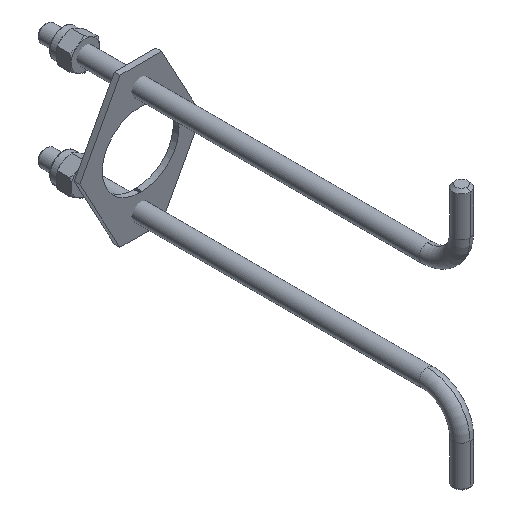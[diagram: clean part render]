
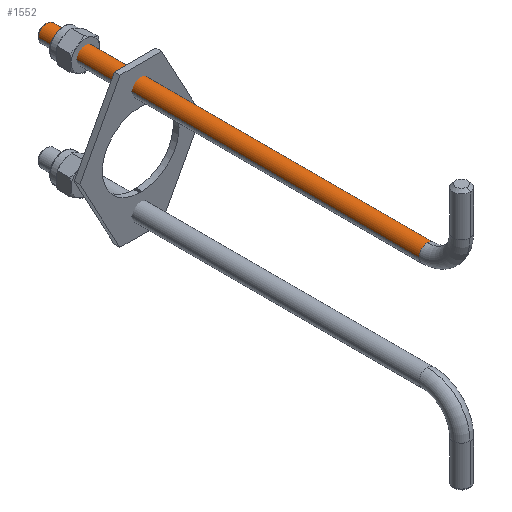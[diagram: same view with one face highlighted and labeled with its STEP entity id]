
A CAD part, isometric view. The second image highlights one B-rep face of the part: STEP entity #1552.
In plain terms, the highlighted cylindrical face has radius 3 mm (diameter 6 mm), a partial arc.
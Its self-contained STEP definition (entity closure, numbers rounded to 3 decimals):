
#12 = ORIENTED_EDGE ( 'NONE', *, *, #364, .F. ) ;
#137 = AXIS2_PLACEMENT_3D ( 'NONE', #2072, #154, #688 ) ;
#154 = DIRECTION ( 'NONE',  ( 0., -1., 0. ) ) ;
#198 = DIRECTION ( 'NONE',  ( 0., 0., -1. ) ) ;
#263 = ORIENTED_EDGE ( 'NONE', *, *, #1246, .F. ) ;
#298 = ORIENTED_EDGE ( 'NONE', *, *, #1731, .F. ) ;
#341 = VERTEX_POINT ( 'NONE', #2081 ) ;
#348 = CARTESIAN_POINT ( 'NONE',  ( -27., 146., 0. ) ) ;
#364 = EDGE_CURVE ( 'NONE', #341, #1883, #578, .T. ) ;
#413 = LINE ( 'NONE', #2033, #1322 ) ;
#557 = VERTEX_POINT ( 'NONE', #1426 ) ;
#561 = DIRECTION ( 'NONE',  ( 0., -1., 0. ) ) ;
#572 = CARTESIAN_POINT ( 'NONE',  ( -27., 12., 0. ) ) ;
#578 = CIRCLE ( 'NONE', #137, 3. ) ;
#613 = DIRECTION ( 'NONE',  ( 0., 0., -1. ) ) ;
#628 = CARTESIAN_POINT ( 'NONE',  ( -27., 12., 0. ) ) ;
#688 = DIRECTION ( 'NONE',  ( 0., 0., -1. ) ) ;
#723 = VECTOR ( 'NONE', #974, 1000. ) ;
#791 = VERTEX_POINT ( 'NONE', #2186 ) ;
#797 = ORIENTED_EDGE ( 'NONE', *, *, #1133, .T. ) ;
#822 = CARTESIAN_POINT ( 'NONE',  ( -27., 146., -3. ) ) ;
#974 = DIRECTION ( 'NONE',  ( 0., 1., 0. ) ) ;
#1061 = ORIENTED_EDGE ( 'NONE', *, *, #1718, .T. ) ;
#1133 = EDGE_CURVE ( 'NONE', #1977, #557, #1555, .T. ) ;
#1176 = AXIS2_PLACEMENT_3D ( 'NONE', #628, #1870, #613 ) ;
#1246 = EDGE_CURVE ( 'NONE', #791, #341, #1685, .T. ) ;
#1274 = DIRECTION ( 'NONE',  ( 0., 0., 1. ) ) ;
#1322 = VECTOR ( 'NONE', #1805, 1000. ) ;
#1368 = CARTESIAN_POINT ( 'NONE',  ( -27., 12., 3. ) ) ;
#1386 = AXIS2_PLACEMENT_3D ( 'NONE', #348, #561, #198 ) ;
#1426 = CARTESIAN_POINT ( 'NONE',  ( -27., 146., 3. ) ) ;
#1552 = ADVANCED_FACE ( 'NONE', ( #1607 ), #2113, .T. ) ;
#1555 = CIRCLE ( 'NONE', #1386, 3. ) ;
#1607 = FACE_OUTER_BOUND ( 'NONE', #2150, .T. ) ;
#1632 = CARTESIAN_POINT ( 'NONE',  ( -27., 12., -3. ) ) ;
#1685 = CIRCLE ( 'NONE', #1176, 3. ) ;
#1718 = EDGE_CURVE ( 'NONE', #791, #1977, #2217, .T. ) ;
#1731 = EDGE_CURVE ( 'NONE', #1883, #557, #413, .T. ) ;
#1738 = DIRECTION ( 'NONE',  ( 0., 1., 0. ) ) ;
#1805 = DIRECTION ( 'NONE',  ( 0., 1., 0. ) ) ;
#1870 = DIRECTION ( 'NONE',  ( 0., -1., 0. ) ) ;
#1883 = VERTEX_POINT ( 'NONE', #1368 ) ;
#1977 = VERTEX_POINT ( 'NONE', #822 ) ;
#1985 = AXIS2_PLACEMENT_3D ( 'NONE', #572, #1738, #1274 ) ;
#2033 = CARTESIAN_POINT ( 'NONE',  ( -27., 12., 3. ) ) ;
#2072 = CARTESIAN_POINT ( 'NONE',  ( -27., 12., 0. ) ) ;
#2081 = CARTESIAN_POINT ( 'NONE',  ( -24., 12., 0. ) ) ;
#2113 = CYLINDRICAL_SURFACE ( 'NONE', #1985, 3. ) ;
#2150 = EDGE_LOOP ( 'NONE', ( #263, #1061, #797, #298, #12 ) ) ;
#2186 = CARTESIAN_POINT ( 'NONE',  ( -27., 12., -3. ) ) ;
#2217 = LINE ( 'NONE', #1632, #723 ) ;
